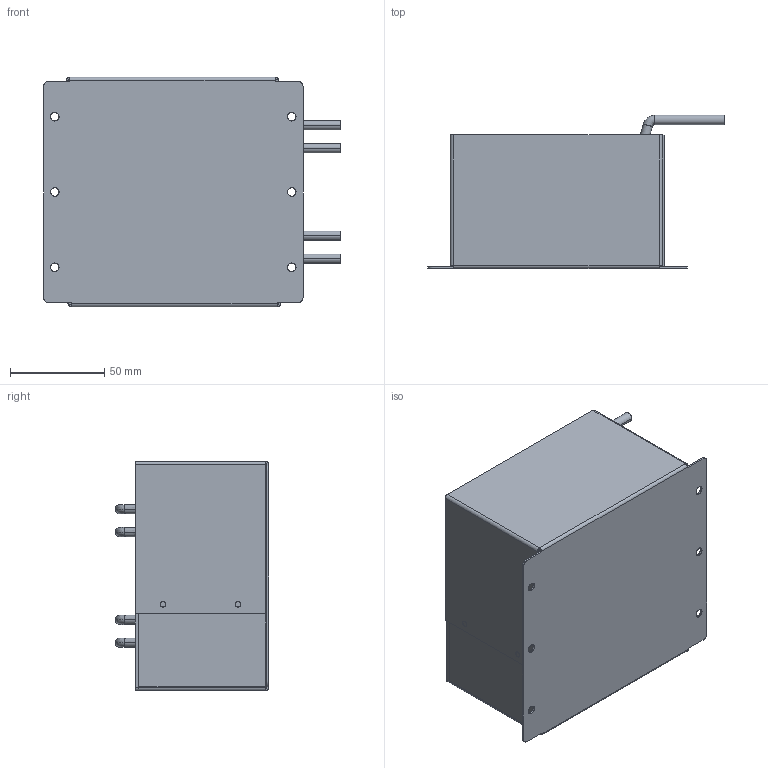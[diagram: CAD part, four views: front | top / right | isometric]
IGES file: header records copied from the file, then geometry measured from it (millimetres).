
Start section: SolidWorks IGES file using analytic representation for surfaces
Global section: file name: 19H\\10.106.230.1\r&d file\05_COMP\02_Mechanical\10_Others\PV_RT 81\网络用3D模型\灌封模型\S-5KW-G-ACL\S-5KW_G_ACL 总装.IGS; native system: SolidWorks 2009; preprocessor: SolidWorks 2009; author: 钱雅婧, ,; organization: 11; date: 120507.170940; units: millimetre
Bounding box: 157.9 x 81.5 x 122 mm (x, y, z)
Surface area: 163282.8 mm2 (no closed solid volume)
Topology: 0 solids, 0 shells, 128 faces, 928 edges, 928 vertices
Faces by surface type: bspline 72, revolution 56
